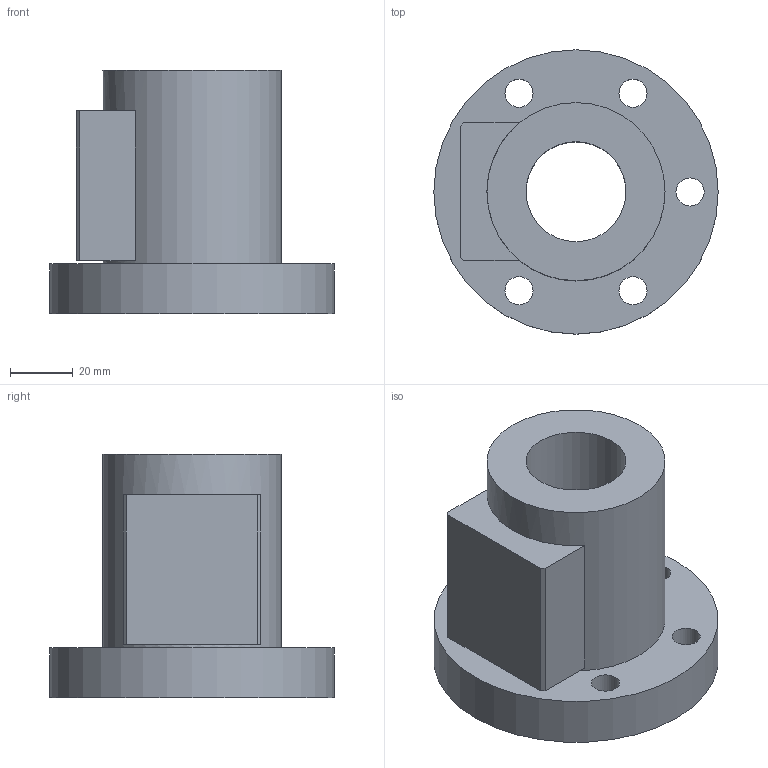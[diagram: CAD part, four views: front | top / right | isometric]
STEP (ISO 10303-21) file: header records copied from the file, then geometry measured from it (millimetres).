
FILE_DESCRIPTION(/* description */ (''),/* implementation_level */ '2;1');
FILE_NAME(/* name */ '32-10C1',/* time_stamp */ '2006-07-31T11:45:48+08:00',/* author */ (''),/* organization */ (''),/* preprocessor_version */ 'ST-DEVELOPER v9',/* originating_system */ 'UGS - NX 4.0',/* authorisation */ '');
FILE_SCHEMA (('CONFIG_CONTROL_DESIGN'));
Length unit declared in the file: millimetre
Products named in the file (1): 32-10C1
Bounding box: 91 x 91 x 78 mm (x, y, z)
Volume: 215193.2 mm3; surface area: 39690.5 mm2
Topology: 1 solids, 1 shells, 28 faces, 61 edges, 42 vertices
Faces by surface type: plane 15, cylinder 13
Full cylindrical faces by diameter (mm): 9 x5, 14 x5, 32 x1, 57 x1, 91 x1
Entity records: 794 total; most frequent: DIRECTION 130, CARTESIAN_POINT 111, ORIENTED_EDGE 88, EDGE_LOOP 60, AXIS2_PLACEMENT_3D 57, FACE_BOUND 45, EDGE_CURVE 44, VERTEX_POINT 38
